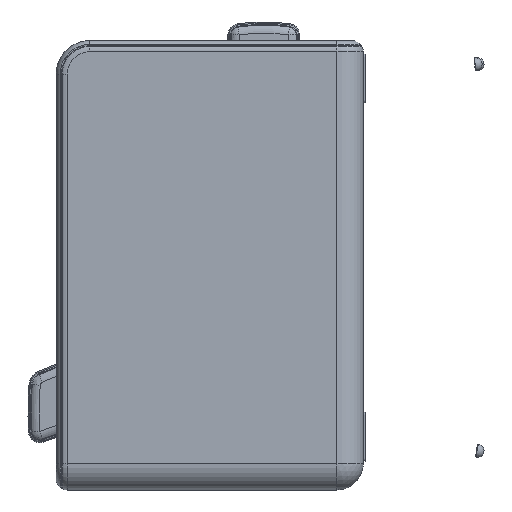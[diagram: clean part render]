
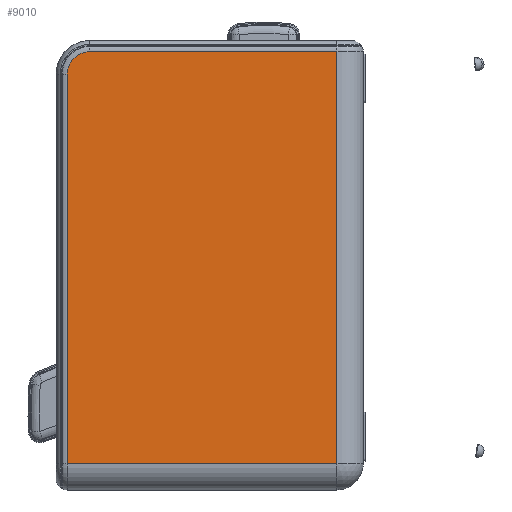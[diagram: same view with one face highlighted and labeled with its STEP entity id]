
A CAD part, left-side view. The second image highlights one B-rep face of the part: STEP entity #9010.
In plain terms, the highlighted planar face has unit normal (-1, 0, 0).
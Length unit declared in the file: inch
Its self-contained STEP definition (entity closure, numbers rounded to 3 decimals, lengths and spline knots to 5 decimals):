
#195=PLANE('',#10143);
#922=FACE_OUTER_BOUND('',#1588,.T.);
#1588=EDGE_LOOP('',(#7192,#7193,#7194,#7195,#7196));
#2360=CIRCLE('',#10117,1.5);
#2955=LINE('',#16401,#3389);
#2956=LINE('',#16410,#3390);
#2963=LINE('',#16448,#3397);
#2965=LINE('',#16454,#3399);
#3389=VECTOR('',#12574,0.3937);
#3390=VECTOR('',#12587,0.3937);
#3397=VECTOR('',#12634,0.3937);
#3399=VECTOR('',#12644,0.3937);
#4033=VERTEX_POINT('',#16398);
#4034=VERTEX_POINT('',#16400);
#4035=VERTEX_POINT('',#16404);
#4036=VERTEX_POINT('',#16408);
#4047=VERTEX_POINT('',#16446);
#5098=EDGE_CURVE('',#4033,#4034,#2955,.T.);
#5101=EDGE_CURVE('',#4035,#4033,#2360,.T.);
#5103=EDGE_CURVE('',#4036,#4035,#2956,.T.);
#5122=EDGE_CURVE('',#4047,#4036,#2963,.T.);
#5125=EDGE_CURVE('',#4034,#4047,#2965,.T.);
#7192=ORIENTED_EDGE('',*,*,#5125,.F.);
#7193=ORIENTED_EDGE('',*,*,#5098,.F.);
#7194=ORIENTED_EDGE('',*,*,#5101,.F.);
#7195=ORIENTED_EDGE('',*,*,#5103,.F.);
#7196=ORIENTED_EDGE('',*,*,#5122,.F.);
#9010=ADVANCED_FACE('',(#922),#195,.T.);
#10117=AXIS2_PLACEMENT_3D('',#16406,#12581,#12582);
#10143=AXIS2_PLACEMENT_3D('',#16453,#12642,#12643);
#12574=DIRECTION('',(0.,-1.,0.));
#12581=DIRECTION('center_axis',(1.,0.,0.));
#12582=DIRECTION('ref_axis',(0.,0.707,0.707));
#12587=DIRECTION('',(0.,0.,1.));
#12634=DIRECTION('',(0.,1.,0.));
#12642=DIRECTION('center_axis',(-1.,0.,0.));
#12643=DIRECTION('ref_axis',(0.,0.,1.));
#12644=DIRECTION('',(0.,0.,-1.));
#16398=CARTESIAN_POINT('',(82.33454,18.25,29.25));
#16400=CARTESIAN_POINT('',(82.33454,1.75,29.25));
#16401=CARTESIAN_POINT('',(82.33454,5.125,29.25));
#16404=CARTESIAN_POINT('',(82.33454,19.75,27.75));
#16406=CARTESIAN_POINT('Origin',(82.33454,18.25,27.75));
#16408=CARTESIAN_POINT('',(82.33454,19.75,1.75));
#16410=CARTESIAN_POINT('',(82.33454,19.75,22.5));
#16446=CARTESIAN_POINT('',(82.33454,1.75,1.75));
#16448=CARTESIAN_POINT('',(82.33454,15.375,1.75));
#16453=CARTESIAN_POINT('Origin',(82.33454,10.25,15.));
#16454=CARTESIAN_POINT('',(82.33454,1.75,7.5));
